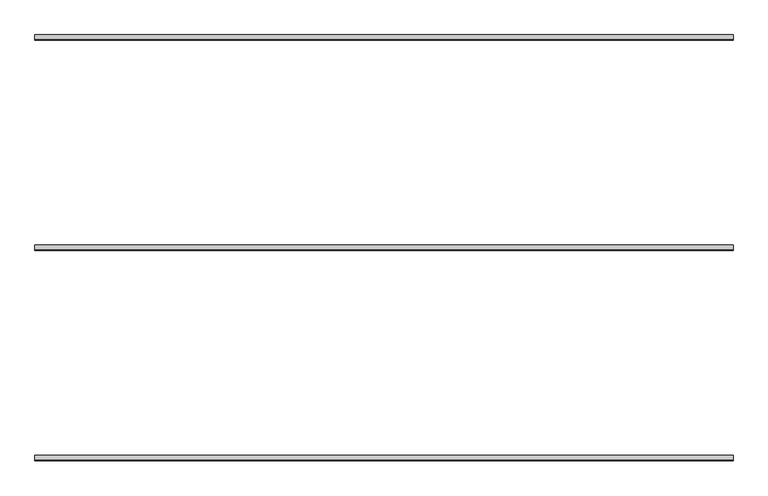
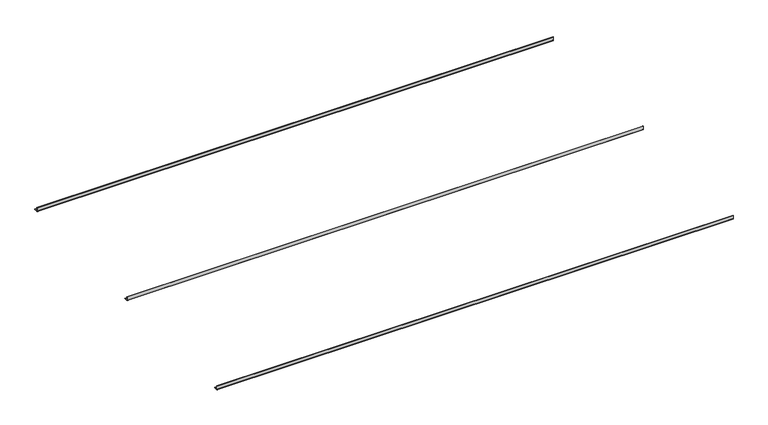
"""IFC4 building model written with IfcOpenShell, lengths in millimetres: proxy geometry, durlum_S7KS_RHOMBOS : durlum_S7KS_RHOMBOS."""

from ifc_helpers import new_model, si_unit, point, frame, frame_2d, origin, place, context, project, spatial, polyline, circle_curve, trimmed, segment, composite_curve, outline, extrude, source, transform, mapped, element, save


def generic_models_d1e42ad1(model_context):
    return source(origin(), model_context, "Body", "SweptSolid", [
        extrude(outline(composite_curve([segment(polyline([(2.0, 3901.9), (2.0, 3876.0)]), True, "CONTINUOUS"), segment(trimmed(circle_curve(frame_2d((4.0, 3876.0)), 2.0), [point((2.0, 3876.0))], [point((4.0, 3874.0))], True, "CARTESIAN"), True, "CONTINUOUS"), segment(polyline([(4.0, 3874.0), (29.9, 3874.0), (29.9, 3872.0), (4.0, 3872.0)]), True, "CONTINUOUS"), segment(trimmed(circle_curve(frame_2d((4.0, 3876.0)), 4.0), [point((4.0, 3872.0))], [point((0.0, 3876.0))], False, "CARTESIAN"), True, "CONTINUOUS"), segment(polyline([(0.0, 3876.0), (0.0, 3901.9), (2.0, 3901.9)]), True, "CONTINUOUS")], self_intersect=False)), frame((-1990.0, 0.0, 0.0), z_axis=(1.0, 0.0, 0.0), x_axis=(0.0, 1.0, 0.0)), (0.0, 0.0, 1.0), 3980.0),
        extrude(outline(composite_curve([segment(polyline([(1202.0, 3901.9), (1202.0, 3876.0)]), True, "CONTINUOUS"), segment(trimmed(circle_curve(frame_2d((1204.0, 3876.0)), 2.0), [point((1202.0, 3876.0))], [point((1204.0, 3874.0))], True, "CARTESIAN"), True, "CONTINUOUS"), segment(polyline([(1204.0, 3874.0), (1229.9, 3874.0), (1229.9, 3872.0), (1204.0, 3872.0)]), True, "CONTINUOUS"), segment(trimmed(circle_curve(frame_2d((1204.0, 3876.0)), 4.0), [point((1204.0, 3872.0))], [point((1200.0, 3876.0))], False, "CARTESIAN"), True, "CONTINUOUS"), segment(polyline([(1200.0, 3876.0), (1200.0, 3901.9), (1202.0, 3901.9)]), True, "CONTINUOUS")], self_intersect=False)), frame((-1990.0, 0.0, 0.0), z_axis=(1.0, 0.0, 0.0), x_axis=(0.0, 1.0, 0.0)), (0.0, 0.0, 1.0), 3980.0),
        extrude(outline(composite_curve([segment(polyline([(-1198.0, 3901.9), (-1198.0, 3876.0)]), True, "CONTINUOUS"), segment(trimmed(circle_curve(frame_2d((-1196.0, 3876.0)), 2.0), [point((-1198.0, 3876.0))], [point((-1196.0, 3874.0))], True, "CARTESIAN"), True, "CONTINUOUS"), segment(polyline([(-1196.0, 3874.0), (-1170.1, 3874.0), (-1170.1, 3872.0), (-1196.0, 3872.0)]), True, "CONTINUOUS"), segment(trimmed(circle_curve(frame_2d((-1196.0, 3876.0)), 4.0), [point((-1196.0, 3872.0))], [point((-1200.0, 3876.0))], False, "CARTESIAN"), True, "CONTINUOUS"), segment(polyline([(-1200.0, 3876.0), (-1200.0, 3901.9), (-1198.0, 3901.9)]), True, "CONTINUOUS")], self_intersect=False)), frame((-1990.0, 0.0, 0.0), z_axis=(1.0, 0.0, 0.0), x_axis=(0.0, 1.0, 0.0)), (0.0, 0.0, 1.0), 3980.0),
    ])


if __name__ == "__main__":
    model = new_model("IFC4")
    model_context = context("Model", 3, world=origin())
    ifc_project = project(units=[si_unit("LENGTHUNIT", "METRE", prefix="MILLI")], contexts=[model_context])
    site = spatial("IfcSite", under=ifc_project)
    building = spatial("IfcBuilding", under=site)
    placement = place(None, origin())
    generic_models_shape = generic_models_d1e42ad1(model_context)
    element("IfcBuildingElementProxy", 1, Name="durlum_S7KS_RHOMBOS : durlum_S7KS_RHOMBOS", ObjectType="durlum_S7KS_RHOMBOS : durlum_S7KS_RHOMBOS", at=placement, inside=building, context=model_context, shape_type="MappedRepresentation", body=[
        mapped(generic_models_shape, transform((0.0, 0.0, 0.0), x_axis=(1.0, 0.0, 0.0), y_axis=(0.0, 1.0, 0.0), z_axis=(0.0, 0.0, 1.0))),
    ])
    save(model, "model.ifc")
